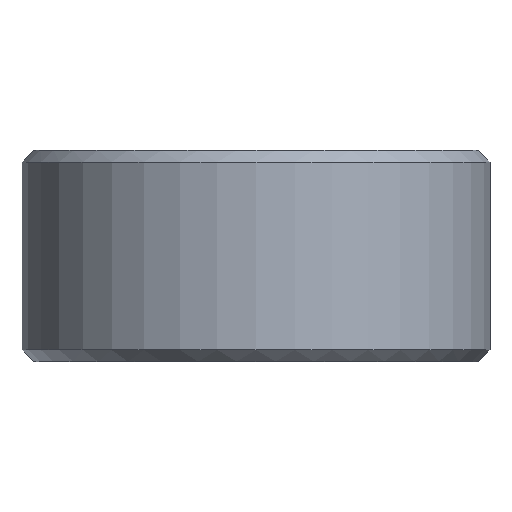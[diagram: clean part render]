
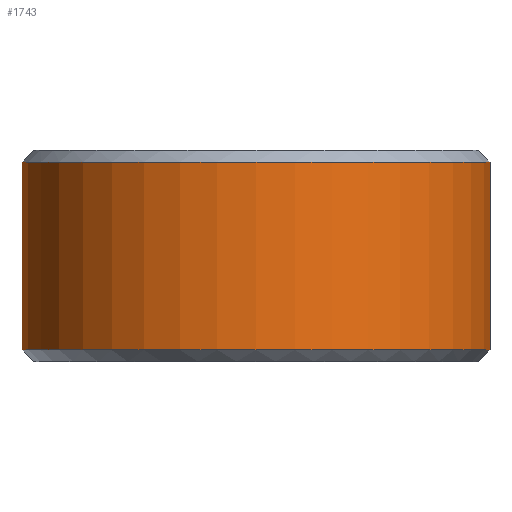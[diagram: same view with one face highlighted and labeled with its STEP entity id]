
A CAD part, front view. The second image highlights one B-rep face of the part: STEP entity #1743.
In plain terms, the highlighted cylindrical face has radius 10 mm (diameter 20 mm), a partial arc.
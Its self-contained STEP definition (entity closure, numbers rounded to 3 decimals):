
#26 = VECTOR ( 'NONE', #1714, 1000. ) ;
#131 = ORIENTED_EDGE ( 'NONE', *, *, #2101, .T. ) ;
#191 = VERTEX_POINT ( 'NONE', #1251 ) ;
#295 = VERTEX_POINT ( 'NONE', #964 ) ;
#377 = DIRECTION ( 'NONE',  ( 0., 0., -1. ) ) ;
#464 = AXIS2_PLACEMENT_3D ( 'NONE', #1431, #1320, #2071 ) ;
#552 = FACE_OUTER_BOUND ( 'NONE', #1286, .T. ) ;
#607 = CARTESIAN_POINT ( 'NONE',  ( 0., 0., 4. ) ) ;
#697 = CARTESIAN_POINT ( 'NONE',  ( 9.968, -0.8, 4. ) ) ;
#789 = VERTEX_POINT ( 'NONE', #810 ) ;
#794 = DIRECTION ( 'NONE',  ( 0., 0., -1. ) ) ;
#810 = CARTESIAN_POINT ( 'NONE',  ( 9.968, -0.8, -4. ) ) ;
#896 = VECTOR ( 'NONE', #794, 1000. ) ;
#903 = CARTESIAN_POINT ( 'NONE',  ( 0., 0., 4.5 ) ) ;
#934 = AXIS2_PLACEMENT_3D ( 'NONE', #903, #377, #1563 ) ;
#964 = CARTESIAN_POINT ( 'NONE',  ( -9.968, -0.8, -4. ) ) ;
#1123 = DIRECTION ( 'NONE',  ( 0., 0., -1. ) ) ;
#1186 = VERTEX_POINT ( 'NONE', #697 ) ;
#1236 = CARTESIAN_POINT ( 'NONE',  ( 9.968, -0.8, 4.5 ) ) ;
#1251 = CARTESIAN_POINT ( 'NONE',  ( -9.968, -0.8, 4. ) ) ;
#1283 = LINE ( 'NONE', #1590, #896 ) ;
#1286 = EDGE_LOOP ( 'NONE', ( #131, #1970, #1396, #1814 ) ) ;
#1318 = EDGE_CURVE ( 'NONE', #191, #295, #1283, .T. ) ;
#1320 = DIRECTION ( 'NONE',  ( 0., 0., 1. ) ) ;
#1396 = ORIENTED_EDGE ( 'NONE', *, *, #1438, .T. ) ;
#1418 = CIRCLE ( 'NONE', #464, 10. ) ;
#1431 = CARTESIAN_POINT ( 'NONE',  ( 0., 0., -4. ) ) ;
#1438 = EDGE_CURVE ( 'NONE', #1186, #191, #2065, .T. ) ;
#1563 = DIRECTION ( 'NONE',  ( -1., 0., 0. ) ) ;
#1590 = CARTESIAN_POINT ( 'NONE',  ( -9.968, -0.8, 4.5 ) ) ;
#1714 = DIRECTION ( 'NONE',  ( 0., 0., 1. ) ) ;
#1726 = CYLINDRICAL_SURFACE ( 'NONE', #934, 10. ) ;
#1742 = EDGE_CURVE ( 'NONE', #789, #1186, #2006, .T. ) ;
#1743 = ADVANCED_FACE ( 'NONE', ( #552 ), #1726, .T. ) ;
#1768 = DIRECTION ( 'NONE',  ( 1., 0., 0. ) ) ;
#1814 = ORIENTED_EDGE ( 'NONE', *, *, #1318, .T. ) ;
#1970 = ORIENTED_EDGE ( 'NONE', *, *, #1742, .T. ) ;
#2006 = LINE ( 'NONE', #1236, #26 ) ;
#2065 = CIRCLE ( 'NONE', #2135, 10. ) ;
#2071 = DIRECTION ( 'NONE',  ( 1., 0., 0. ) ) ;
#2101 = EDGE_CURVE ( 'NONE', #295, #789, #1418, .T. ) ;
#2135 = AXIS2_PLACEMENT_3D ( 'NONE', #607, #1123, #1768 ) ;
